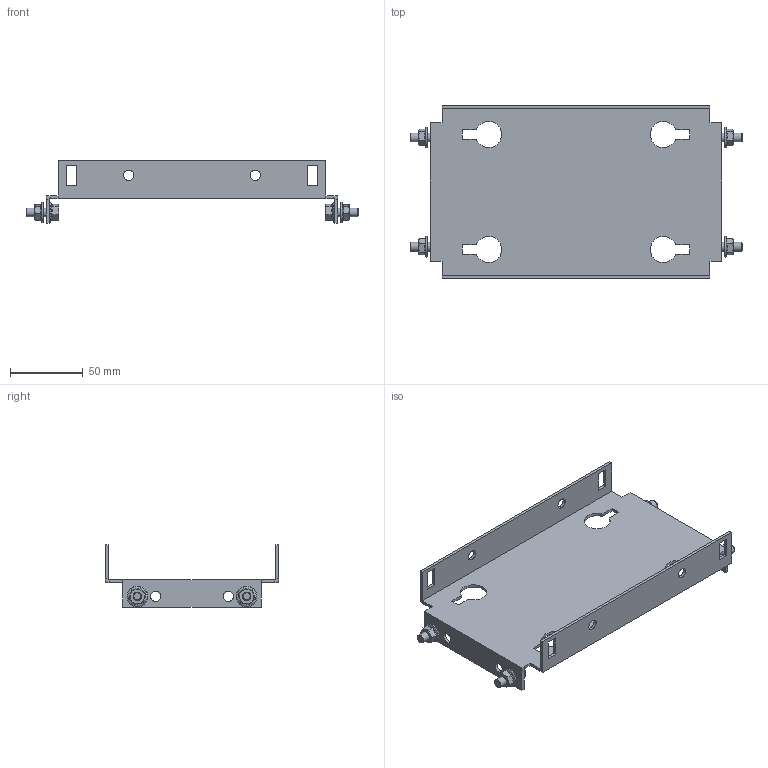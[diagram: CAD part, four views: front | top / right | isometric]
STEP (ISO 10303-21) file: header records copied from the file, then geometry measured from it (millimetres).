
FILE_DESCRIPTION(('Open CASCADE Model'),'2;1');
FILE_NAME('Open CASCADE Shape Model','2025-02-20T13:24:41',('Author'),( 'Open CASCADE'),'Open CASCADE STEP processor 7.8','Open CASCADE 7.8' ,'Unknown');
FILE_SCHEMA(('AUTOMOTIVE_DESIGN { 1 0 10303 214 1 1 1 1 }'));
Length unit declared in the file: millimetre
Products named in the file (4): Compound1; Solid1; Solid2; Solid3
Assembly tree (9 placements, depth 2):
  Compound1
    Solid1
    Solid2  x4
    Solid3  x4
Bounding box: 228 x 119 x 43 mm (x, y, z)
Volume: 73103.7 mm3; surface area: 75205.8 mm2
Topology: 9 solids, 9 shells, 306 faces, 746 edges, 462 vertices
Faces by surface type: plane 150, cone 68, bspline 48, cylinder 28, torus 12
Full cylindrical faces by diameter (mm): 5 x4, 6 x8, 7 x12
Entity records: 4844 total; most frequent: CARTESIAN_POINT 1361, ORIENTED_EDGE 742, DIRECTION 628, EDGE_CURVE 371, VERTEX_POINT 240, LINE 216, VECTOR 216, AXIS2_PLACEMENT_3D 206
